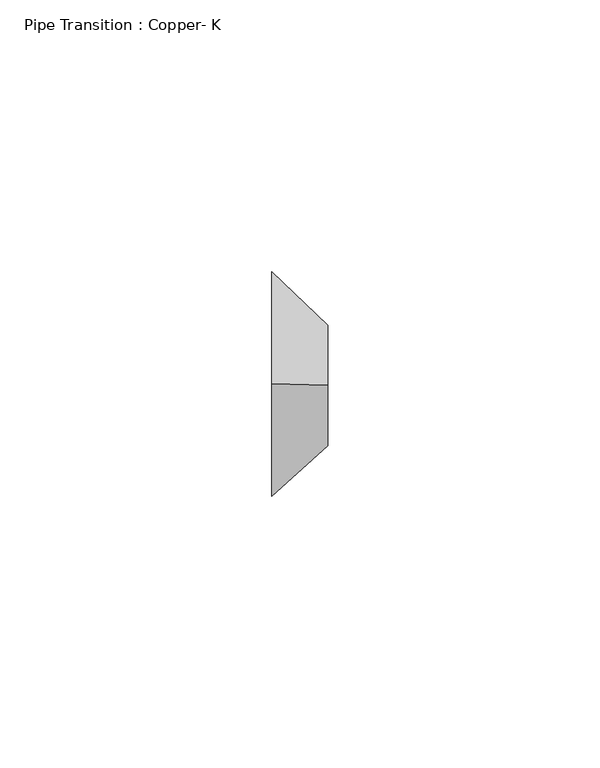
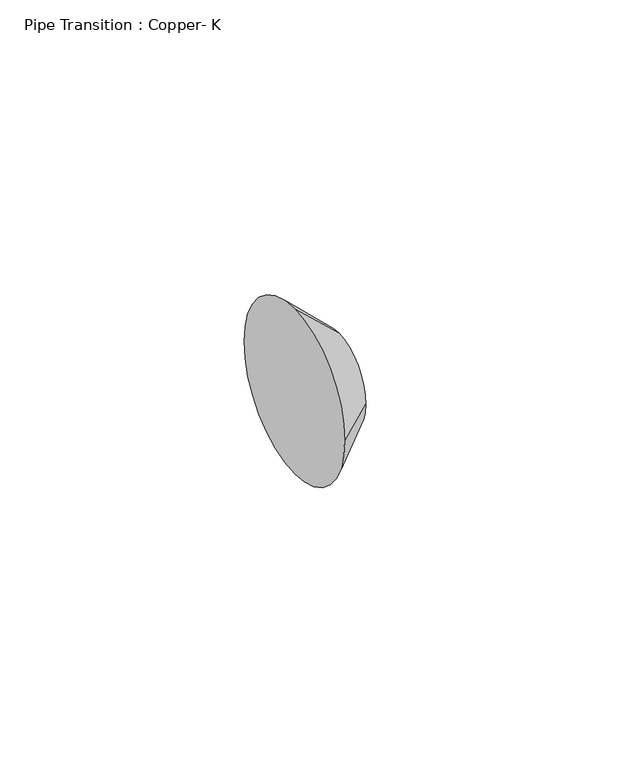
"""IFC4 building model written with IfcOpenShell, lengths in millimetres: pipe fitting geometry, Pipe Transition : Copper- K."""

from ifc_helpers import new_model, si_unit, frame, origin, place, context, project, spatial, circle_curve, source, transform, mapped, element, save
from ifc_brep_helpers import plane_surface, spline_surface, advanced_brep


def pipe_transition_copper_k_020baa9e(model_context):
    return source(origin(), model_context, "Body", "AdvancedBrep", [
        advanced_brep(
        [(10.31875, -0.2620888, 11.1125), (10.31875, -11.3745888, 0.0), (10.31875, -0.2620888, -11.1125), (10.31875, 10.8504112, 0.0), (0.0, 0.0, 20.6375), (0.0, 20.6375, 0.0), (0.0, 0.0, -20.6375), (0.0, -20.6375, 0.0)],
        [
            (0, 1, circle_curve(frame((10.31875, -0.2620888, 0.0), z_axis=(1.0, 0.0, 0.0), x_axis=(0.0, -1.0, 0.0)), 11.1125)),
            (1, 2, circle_curve(frame((10.31875, -0.2620888, 0.0), z_axis=(1.0, 0.0, 0.0), x_axis=(0.0, -1.0, 0.0)), 11.1125)),
            (2, 3, circle_curve(frame((10.31875, -0.2620888, 0.0), z_axis=(1.0, 0.0, 0.0), x_axis=(0.0, -1.0, 0.0)), 11.1125)),
            (3, 0, circle_curve(frame((10.31875, -0.2620888, 0.0), z_axis=(1.0, 0.0, 0.0), x_axis=(0.0, -1.0, 0.0)), 11.1125)),
            (4, 5, circle_curve(frame((0.0, 0.0, 0.0), z_axis=(-1.0, 0.0, 0.0), x_axis=(0.0, -1.0, 0.0)), 20.6375)),
            (5, 6, circle_curve(frame((0.0, 0.0, 0.0), z_axis=(-1.0, 0.0, 0.0), x_axis=(0.0, -1.0, 0.0)), 20.6375)),
            (6, 7, circle_curve(frame((0.0, 0.0, 0.0), z_axis=(-1.0, 0.0, 0.0), x_axis=(0.0, -1.0, 0.0)), 20.6375)),
            (7, 4, circle_curve(frame((0.0, 0.0, 0.0), z_axis=(-1.0, 0.0, 0.0), x_axis=(0.0, -1.0, 0.0)), 20.6375)),
            (4, 0),
            (3, 5),
            (2, 6),
            (1, 7),
        ],
        [
            plane_surface(frame((10.31875, -0.2620888, 0.0), z_axis=(1.0, 0.0, 0.0), x_axis=(0.0, 1.0, 0.0))),
            plane_surface(frame((0.0, 0.0, 0.0), z_axis=(-1.0, 0.0, 0.0), x_axis=(0.0, 1.0, 0.0))),
            spline_surface(1, 2, [[(0.0, 0.0, 20.6375), (0.0, 20.6375, 20.6375), (0.0, 20.6375, 0.0)], [(10.31875, -0.2620888, 11.1125), (10.31875, 10.8504112, 11.1125), (10.31875, 10.8504112, 0.0)]], [2, 2], [3, 3], [0.0, 1.0], [0.0, 1.0], weights=[[1.0, 0.7071067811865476, 1.0], [1.0, 0.7071067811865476, 1.0]]),
            spline_surface(1, 2, [[(0.0, 20.6375, 0.0), (0.0, 20.6375, -20.6375), (0.0, 0.0, -20.6375)], [(10.31875, 10.8504112, 0.0), (10.31875, 10.8504112, -11.1125), (10.31875, -0.2620888, -11.1125)]], [2, 2], [3, 3], [0.0, 1.0], [0.0, 1.0], weights=[[1.0, 0.7071067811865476, 1.0], [1.0, 0.7071067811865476, 1.0]]),
            spline_surface(1, 2, [[(0.0, 0.0, -20.6375), (0.0, -20.6375, -20.6375), (0.0, -20.6375, 0.0)], [(10.31875, -0.2620888, -11.1125), (10.31875, -11.374588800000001, -11.1125), (10.31875, -11.3745888, 0.0)]], [2, 2], [3, 3], [0.0, 1.0], [0.0, 1.0], weights=[[1.0, 0.7071067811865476, 1.0], [1.0, 0.7071067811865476, 1.0]]),
            spline_surface(1, 2, [[(0.0, -20.6375, 0.0), (0.0, -20.6375, 20.6375), (0.0, 0.0, 20.6375)], [(10.31875, -11.3745888, 0.0), (10.31875, -11.3745888, 11.112499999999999), (10.31875, -0.2620888, 11.1125)]], [2, 2], [3, 3], [0.0, 1.0], [0.0, 1.0], weights=[[1.0, 0.7071067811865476, 1.0], [1.0, 0.7071067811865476, 1.0]]),
        ],
        [
            (0, [[1, 2, 3, 4]]),
            (1, [[5, 6, 7, 8]]),
            (2, [[9, -4, 10, -5]]),
            (3, [[-10, -3, 11, -6]]),
            (4, [[-11, -2, 12, -7]]),
            (5, [[-12, -1, -9, -8]]),
        ],
    ),
        advanced_brep(
        [(10.31875, -0.2620888, 11.1125), (10.31875, -11.3745888, 0.0), (10.31875, -0.2620888, -11.1125), (10.31875, 10.8504112, 0.0), (0.0, 0.0, 20.6375), (0.0, 20.6375, 0.0), (0.0, 0.0, -20.6375), (0.0, -20.6375, 0.0)],
        [
            (0, 1, circle_curve(frame((10.31875, -0.2620888, 0.0), z_axis=(1.0, 0.0, 0.0), x_axis=(0.0, -1.0, 0.0)), 11.1125)),
            (1, 2, circle_curve(frame((10.31875, -0.2620888, 0.0), z_axis=(1.0, 0.0, 0.0), x_axis=(0.0, -1.0, 0.0)), 11.1125)),
            (2, 3, circle_curve(frame((10.31875, -0.2620888, 0.0), z_axis=(1.0, 0.0, 0.0), x_axis=(0.0, -1.0, 0.0)), 11.1125)),
            (3, 0, circle_curve(frame((10.31875, -0.2620888, 0.0), z_axis=(1.0, 0.0, 0.0), x_axis=(0.0, -1.0, 0.0)), 11.1125)),
            (4, 5, circle_curve(frame((0.0, 0.0, 0.0), z_axis=(-1.0, 0.0, 0.0), x_axis=(0.0, -1.0, 0.0)), 20.6375)),
            (5, 6, circle_curve(frame((0.0, 0.0, 0.0), z_axis=(-1.0, 0.0, 0.0), x_axis=(0.0, -1.0, 0.0)), 20.6375)),
            (6, 7, circle_curve(frame((0.0, 0.0, 0.0), z_axis=(-1.0, 0.0, 0.0), x_axis=(0.0, -1.0, 0.0)), 20.6375)),
            (7, 4, circle_curve(frame((0.0, 0.0, 0.0), z_axis=(-1.0, 0.0, 0.0), x_axis=(0.0, -1.0, 0.0)), 20.6375)),
            (4, 0),
            (3, 5),
            (2, 6),
            (1, 7),
        ],
        [
            plane_surface(frame((10.31875, -0.2620888, 0.0), z_axis=(1.0, 0.0, 0.0), x_axis=(0.0, 1.0, 0.0))),
            plane_surface(frame((0.0, 0.0, 0.0), z_axis=(-1.0, 0.0, 0.0), x_axis=(0.0, 1.0, 0.0))),
            spline_surface(1, 2, [[(0.0, 0.0, 20.6375), (0.0, 20.6375, 20.6375), (0.0, 20.6375, 0.0)], [(10.31875, -0.2620888, 11.1125), (10.31875, 10.8504112, 11.1125), (10.31875, 10.8504112, 0.0)]], [2, 2], [3, 3], [0.0, 1.0], [0.0, 1.0], weights=[[1.0, 0.7071067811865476, 1.0], [1.0, 0.7071067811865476, 1.0]]),
            spline_surface(1, 2, [[(0.0, 20.6375, 0.0), (0.0, 20.6375, -20.6375), (0.0, 0.0, -20.6375)], [(10.31875, 10.8504112, 0.0), (10.31875, 10.8504112, -11.1125), (10.31875, -0.2620888, -11.1125)]], [2, 2], [3, 3], [0.0, 1.0], [0.0, 1.0], weights=[[1.0, 0.7071067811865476, 1.0], [1.0, 0.7071067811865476, 1.0]]),
            spline_surface(1, 2, [[(0.0, 0.0, -20.6375), (0.0, -20.6375, -20.6375), (0.0, -20.6375, 0.0)], [(10.31875, -0.2620888, -11.1125), (10.31875, -11.374588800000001, -11.1125), (10.31875, -11.3745888, 0.0)]], [2, 2], [3, 3], [0.0, 1.0], [0.0, 1.0], weights=[[1.0, 0.7071067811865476, 1.0], [1.0, 0.7071067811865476, 1.0]]),
            spline_surface(1, 2, [[(0.0, -20.6375, 0.0), (0.0, -20.6375, 20.6375), (0.0, 0.0, 20.6375)], [(10.31875, -11.3745888, 0.0), (10.31875, -11.3745888, 11.112499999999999), (10.31875, -0.2620888, 11.1125)]], [2, 2], [3, 3], [0.0, 1.0], [0.0, 1.0], weights=[[1.0, 0.7071067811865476, 1.0], [1.0, 0.7071067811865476, 1.0]]),
        ],
        [
            (0, [[1, 2, 3, 4]]),
            (1, [[5, 6, 7, 8]]),
            (2, [[9, -4, 10, -5]]),
            (3, [[-10, -3, 11, -6]]),
            (4, [[-11, -2, 12, -7]]),
            (5, [[-12, -1, -9, -8]]),
        ],
    ),
    ])


if __name__ == "__main__":
    model = new_model("IFC4")
    model_context = context("Model", 3, world=origin())
    ifc_project = project(units=[si_unit("LENGTHUNIT", "METRE", prefix="MILLI")], contexts=[model_context])
    site = spatial("IfcSite", under=ifc_project)
    building = spatial("IfcBuilding", under=site)
    placement = place(None, origin())
    pipe_transition_copper_k_shape = pipe_transition_copper_k_020baa9e(model_context)
    element("IfcPipeFitting", 1, ObjectType="Pipe Transition : Copper- K", at=placement, inside=building, context=model_context, shape_type="MappedRepresentation", body=[
        mapped(pipe_transition_copper_k_shape, transform((0.0, 0.0, 0.0), x_axis=(1.0, 0.0, 0.0), y_axis=(0.0, 1.0, 0.0), z_axis=(0.0, 0.0, 1.0))),
    ])
    save(model, "model.ifc")
